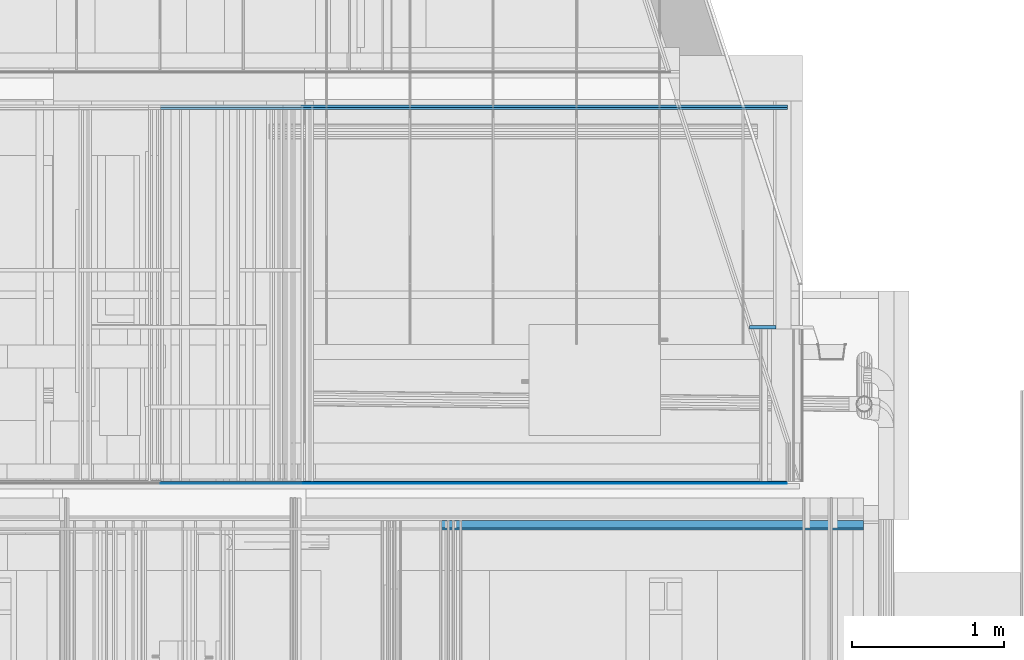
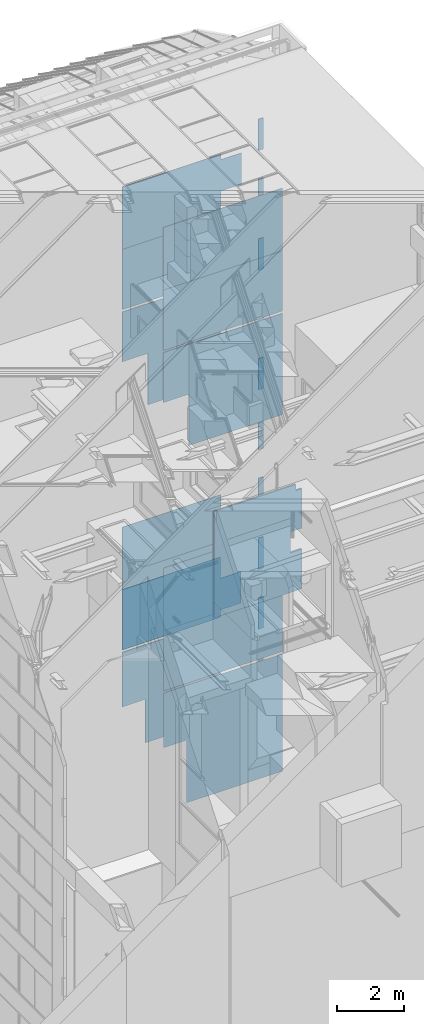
# One storey, part 285 of 583: 29 slabs.
"""IFC2X3 building model written with IfcOpenShell, lengths in metres."""

import ifcopenshell
import ifcopenshell.guid

model = None  # the IFC model being written
_history = None  # IfcOwnerHistory: only IFC2X3 demands one
_inside = {}  # id of a spatial element -> (the spatial element, [elements in it])
_under = {}  # id of a project, library or spatial element -> (it, [spatial elements below it])
_declared = {}  # id of a project -> (the project, [libraries it declares])
_typed = {}  # id of a type object -> (the type object, [elements of that type])
_made_of = {}  # id of a material, layer set ... -> (it, [elements and type objects made of it])


def new_model(schema):
    """Start an empty IFC model of exactly this schema.

    Asked for "IFC4X3", IfcOpenShell would pick the latest addendum, in which some entities
    have other attributes; the version numbers below select the first issue.
    IFC2X3 requires an IfcOwnerHistory on every rooted entity: one is made here for all.
    """
    global model, _history
    if schema == "IFC4X3":
        model = ifcopenshell.file(schema_version=(4, 3, 0, 0))
    else:
        model = ifcopenshell.file(schema=schema)
    _inside.clear()
    _under.clear()
    _declared.clear()
    _typed.clear()
    _made_of.clear()
    _history = None
    if model.schema == "IFC2X3":
        org = make("IfcOrganization", Name="unknown")
        user = make(
            "IfcPersonAndOrganization",
            ThePerson=make("IfcPerson", FamilyName="unknown"),
            TheOrganization=org,
        )
        app = make(
            "IfcApplication",
            ApplicationDeveloper=org,
            Version="unknown",
            ApplicationFullName="unknown",
            ApplicationIdentifier="unknown",
        )
        _history = make(
            "IfcOwnerHistory",
            OwningUser=user,
            OwningApplication=app,
            ChangeAction="ADDED",
            CreationDate=0,
        )
    return model


def make(cls, **values):
    """One entity of the class cls with the attributes given. An attribute that is None is left unset."""
    return model.create_entity(
        cls, **{name: value for name, value in values.items() if value is not None}
    )


def entity(cls, *values):
    """Any entity or typed value of the class cls, its attributes in the order of the schema. None: left unset."""
    e = model.create_entity(cls)
    for i, value in enumerate(values):
        if value is not None:
            e[i] = value
    return e


def rooted(cls, **values):
    """An entity with a GlobalId (a new one), such as an element, a storey or a relation."""
    return make(cls, GlobalId=ifcopenshell.guid.new(), OwnerHistory=_history, **values)


def si_unit(unit_type, name, prefix=None):
    """IfcSIUnit, for example si_unit("LENGTHUNIT", "METRE", prefix="MILLI")."""
    return make("IfcSIUnit", UnitType=unit_type, Prefix=prefix, Name=name)


def converted_unit(unit_type, name, factor, base, dimensions=None, offset=None):
    """IfcConversionBasedUnit, such as the inch: factor (a typed value) times the base unit."""
    return make(
        "IfcConversionBasedUnit"
        if offset is None
        else "IfcConversionBasedUnitWithOffset",
        ConversionOffset=offset,
        Dimensions=None
        if dimensions is None
        else entity("IfcDimensionalExponents", *dimensions),
        UnitType=unit_type,
        Name=name,
        ConversionFactor=make(
            "IfcMeasureWithUnit", ValueComponent=factor, UnitComponent=base
        ),
    )


def derived_unit(unit_type, elements):
    """IfcDerivedUnit: a product of units, each with its exponent."""
    return make(
        "IfcDerivedUnit",
        Elements=[
            make("IfcDerivedUnitElement", Unit=unit, Exponent=power)
            for unit, power in elements
        ],
        UnitType=unit_type,
    )


def money_unit(currency):
    """IfcMonetaryUnit."""
    return make("IfcMonetaryUnit", Currency=currency)


def assignment(units):
    """IfcUnitAssignment: the units of a project."""
    return None if units is None else make("IfcUnitAssignment", Units=units)


def point(xyz):
    """IfcCartesianPoint."""
    return None if xyz is None else make("IfcCartesianPoint", Coordinates=xyz)


def direction(xyz):
    """IfcDirection."""
    return None if xyz is None else make("IfcDirection", DirectionRatios=xyz)


def frame(location, z_axis=None, x_axis=None):
    """IfcAxis2Placement3D, a coordinate frame: its origin and axes. An axis left out is left unset."""
    return make(
        "IfcAxis2Placement3D",
        Location=point(location),
        Axis=direction(z_axis),
        RefDirection=direction(x_axis),
    )


def origin_with_axes():
    """The frame at (0, 0, 0) with the z axis (0, 0, 1) and the x axis (1, 0, 0) written out."""
    return frame((0.0, 0.0, 0.0), z_axis=(0.0, 0.0, 1.0), x_axis=(1.0, 0.0, 0.0))


def place(relative_to, where):
    """IfcLocalPlacement: puts the frame where relative to a parent placement (None: the world)."""
    return make(
        "IfcLocalPlacement", PlacementRelTo=relative_to, RelativePlacement=where
    )


def context(
    kind, dimensions, precision=None, world=None, true_north=None, identifier=None
):
    """IfcGeometricRepresentationContext, for example the 3D "Model" context."""
    return make(
        "IfcGeometricRepresentationContext",
        ContextIdentifier=identifier,
        ContextType=kind,
        CoordinateSpaceDimension=dimensions,
        Precision=precision,
        WorldCoordinateSystem=world,
        TrueNorth=true_north,
    )


def subcontext(parent, identifier, kind, view, scale=None):
    """IfcGeometricRepresentationSubContext, for example "Body" below "Model"."""
    return make(
        "IfcGeometricRepresentationSubContext",
        ContextIdentifier=identifier,
        ContextType=kind,
        ParentContext=parent,
        TargetScale=scale,
        TargetView=view,
    )


def project(units=None, contexts=None):
    """IfcProject with its units and contexts."""
    return rooted(
        "IfcProject",
        Name="project",
        RepresentationContexts=contexts,
        UnitsInContext=assignment(units),
    )


def spatial(cls, under=None, at=None, **own):
    """A site, building, storey or space (cls), placed at a placement, below another one or the project."""
    s = rooted(cls, ObjectPlacement=at, **own)
    if under is not None:
        _under.setdefault(under.id(), (under, []))[1].append(s)
    return s


def faces_of(points, faces, orient=None, outer=None):
    """IfcFace entities. A face is a list of loops; a loop is a list of indices into points, from 0.

    orient and outer hold one flag for each loop. By default every Orientation is true, the
    first loop of a face is its IfcFaceOuterBound and the others are IfcFaceBound.
    """
    made = []
    for i, loops in enumerate(faces):
        bounds = []
        for j, loop in enumerate(loops):
            is_outer = j == 0 if outer is None else outer[i][j]
            bounds.append(
                make(
                    "IfcFaceOuterBound" if is_outer else "IfcFaceBound",
                    Bound=make("IfcPolyLoop", Polygon=[points[k] for k in loop]),
                    Orientation=True if orient is None else orient[i][j],
                )
            )
        made.append(make("IfcFace", Bounds=bounds))
    return made


def faceted_brep(points, faces, orient=None, outer=None, voids=None):
    """IfcFacetedBrep: a solid bounded by flat faces; with voids (closed shells), ...WithVoids."""
    shared = [point(p) for p in points]
    hull = make("IfcClosedShell", CfsFaces=faces_of(shared, faces, orient, outer))
    if voids is None:
        return make("IfcFacetedBrep", Outer=hull)
    return make(
        "IfcFacetedBrepWithVoids",
        Outer=hull,
        Voids=[
            make(cls, CfsFaces=faces_of(shared, fs, o, b)) for cls, fs, o, b in voids
        ],
    )


def shape(context_of_items, identifier, shape_type, items):
    """IfcShapeRepresentation: the items that make up one representation, for example the "Body"."""
    return make(
        "IfcShapeRepresentation",
        ContextOfItems=context_of_items,
        RepresentationIdentifier=identifier,
        RepresentationType=shape_type,
        Items=items,
    )


def material(Name=None, Category=None):
    """IfcMaterial."""
    return make("IfcMaterial", Name=Name, Category=Category)


def made_of(thing, what):
    """Note that an element or type object is made of a material, layer set ...; save() writes the relation."""
    if what is not None:
        _made_of.setdefault(what.id(), (what, []))[1].append(thing)
    return thing


def type_object(cls, material=None, **own):
    """A type object (cls), such as IfcWallType, which elements share."""
    return made_of(rooted(cls, **own), material)


def element(
    cls,
    number,
    at=None,
    inside=None,
    cuts=None,
    type_object=None,
    material=None,
    context=None,
    identifier="Body",
    shape_type=None,
    held_by="IfcProductDefinitionShape",
    body=None,
    shapes=None,
    **own,
):
    """One element of the class cls, such as IfcWall. Its Tag is "e" and its number.

    at: its placement. inside: the storey or other place that contains it. cuts: it is an
    opening in that element (IfcRelVoidsElement). A single representation is given by context,
    identifier, shape_type and body (its items); several are given by shapes. held_by: the class
    of the entity that holds the representations. save() writes the other relations.
    """
    e = rooted(cls, Tag="e%d" % number, ObjectPlacement=at, **own)
    if body is not None:
        shapes = [shape(context, identifier, shape_type, body)]
    if shapes is not None:
        e.Representation = make(held_by, Representations=shapes)
    if inside is not None:
        _inside.setdefault(inside.id(), (inside, []))[1].append(e)
    if cuts is not None:
        rooted(
            "IfcRelVoidsElement", RelatingBuildingElement=cuts, RelatedOpeningElement=e
        )
    if type_object is not None:
        _typed.setdefault(type_object.id(), (type_object, []))[1].append(e)
    return made_of(e, material)


def aggregate(whole, parts):
    """IfcRelAggregates: a whole, such as a stair, and the parts it consists of."""
    return rooted("IfcRelAggregates", RelatingObject=whole, RelatedObjects=parts)


def save(model, path):
    """Write the relations noted so far, then the file.

    IfcRelAggregates (storeys below a building ...), IfcRelContainedInSpatialStructure (elements
    in a storey), IfcRelDefinesByType, IfcRelAssociatesMaterial and IfcRelDeclares: one each for
    every whole, place, type object, material and project.
    """
    for whole, parts in _under.values():
        aggregate(whole, parts)
    for where, things in _inside.values():
        rooted(
            "IfcRelContainedInSpatialStructure",
            RelatedElements=things,
            RelatingStructure=where,
        )
    for kind, things in _typed.values():
        rooted("IfcRelDefinesByType", RelatedObjects=things, RelatingType=kind)
    for what, things in _made_of.values():
        rooted("IfcRelAssociatesMaterial", RelatedObjects=things, RelatingMaterial=what)
    for by, libraries in _declared.values():
        rooted("IfcRelDeclares", RelatingContext=by, RelatedDefinitions=libraries)
    model.write(path)


model = new_model("IFC2X3")

# Units and contexts
model_context = context("Model", 3, precision=1e-05, world=origin_with_axes(), true_north=direction((0.0, 1.0)))
body_context = subcontext(model_context, "Body", "Model", "MODEL_VIEW", scale=1.0)
ifc_project = project(units=[si_unit("LENGTHUNIT", "METRE"), si_unit("AREAUNIT", "SQUARE_METRE"), si_unit("VOLUMEUNIT", "CUBIC_METRE"), si_unit("ABSORBEDDOSEUNIT", "GRAY"), si_unit("AMOUNTOFSUBSTANCEUNIT", "MOLE"), si_unit("DOSEEQUIVALENTUNIT", "SIEVERT"), si_unit("ELECTRICCAPACITANCEUNIT", "FARAD"), si_unit("ELECTRICCHARGEUNIT", "COULOMB"), si_unit("ELECTRICCONDUCTANCEUNIT", "SIEMENS"), si_unit("ELECTRICCURRENTUNIT", "AMPERE"), si_unit("ELECTRICRESISTANCEUNIT", "OHM"), si_unit("ELECTRICVOLTAGEUNIT", "VOLT"), si_unit("ENERGYUNIT", "JOULE"), si_unit("FORCEUNIT", "NEWTON"), si_unit("FREQUENCYUNIT", "HERTZ"), si_unit("ILLUMINANCEUNIT", "LUX"), si_unit("INDUCTANCEUNIT", "HENRY"), si_unit("LUMINOUSFLUXUNIT", "LUMEN"), si_unit("LUMINOUSINTENSITYUNIT", "CANDELA"), si_unit("MAGNETICFLUXDENSITYUNIT", "TESLA"), si_unit("MAGNETICFLUXUNIT", "WEBER"), si_unit("MASSUNIT", "GRAM"), converted_unit("PLANEANGLEUNIT", "degree", entity("IfcReal", 0.0174532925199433), si_unit("PLANEANGLEUNIT", "RADIAN"), dimensions=[0, 0, 0, 0, 0, 0, 0]), si_unit("POWERUNIT", "WATT"), si_unit("PRESSUREUNIT", "PASCAL"), si_unit("RADIOACTIVITYUNIT", "BECQUEREL"), si_unit("SOLIDANGLEUNIT", "STERADIAN"), si_unit("THERMODYNAMICTEMPERATUREUNIT", "KELVIN"), si_unit("TIMEUNIT", "SECOND"), derived_unit("ACCELERATIONUNIT", [(si_unit("LENGTHUNIT", "METRE"), 1), (si_unit("TIMEUNIT", "SECOND"), -2)]), derived_unit("ANGULARVELOCITYUNIT", [(converted_unit("PLANEANGLEUNIT", "degree", entity("IfcReal", 0.0174532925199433), si_unit("PLANEANGLEUNIT", "RADIAN"), dimensions=[0, 0, 0, 0, 0, 0, 0]), 1), (si_unit("TIMEUNIT", "SECOND"), -1)]), derived_unit("CURVATUREUNIT", [(converted_unit("PLANEANGLEUNIT", "degree", entity("IfcReal", 0.0174532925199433), si_unit("PLANEANGLEUNIT", "RADIAN"), dimensions=[0, 0, 0, 0, 0, 0, 0]), 1), (si_unit("LENGTHUNIT", "METRE"), -1)]), derived_unit("DYNAMICVISCOSITYUNIT", [(si_unit("PRESSUREUNIT", "PASCAL"), 1), (si_unit("TIMEUNIT", "SECOND"), 1)]), derived_unit("HEATFLUXDENSITYUNIT", [(si_unit("POWERUNIT", "WATT"), 1), (si_unit("LENGTHUNIT", "METRE"), -2)]), derived_unit("HEATINGVALUEUNIT", [(si_unit("ENERGYUNIT", "JOULE"), 1), (si_unit("MASSUNIT", "GRAM"), -1)]), derived_unit("INTEGERCOUNTRATEUNIT", [(si_unit("TIMEUNIT", "SECOND"), -1)]), derived_unit("IONCONCENTRATIONUNIT", [(si_unit("MASSUNIT", "GRAM"), 1), (si_unit("VOLUMEUNIT", "CUBIC_METRE"), -1)]), derived_unit("ISOTHERMALMOISTURECAPACITYUNIT", [(si_unit("VOLUMEUNIT", "CUBIC_METRE"), 1), (si_unit("MASSUNIT", "GRAM"), -1)]), derived_unit("KINEMATICVISCOSITYUNIT", [(si_unit("AREAUNIT", "SQUARE_METRE"), 1), (si_unit("TIMEUNIT", "SECOND"), -1)]), derived_unit("LINEARFORCEUNIT", [(si_unit("FORCEUNIT", "NEWTON"), 1), (si_unit("LENGTHUNIT", "METRE"), -1)]), derived_unit("LINEARMOMENTUNIT", [(si_unit("FORCEUNIT", "NEWTON"), 1), (si_unit("LENGTHUNIT", "METRE"), -1)]), derived_unit("LINEARSTIFFNESSUNIT", [(si_unit("FORCEUNIT", "NEWTON"), 1), (si_unit("LENGTHUNIT", "METRE"), -1)]), derived_unit("LINEARVELOCITYUNIT", [(si_unit("LENGTHUNIT", "METRE"), 1), (si_unit("TIMEUNIT", "SECOND"), -1)]), derived_unit("LUMINOUSINTENSITYDISTRIBUTIONUNIT", [(si_unit("LUMINOUSINTENSITYUNIT", "CANDELA"), 1), (si_unit("LUMINOUSFLUXUNIT", "LUMEN"), -1)]), derived_unit("MASSDENSITYUNIT", [(si_unit("MASSUNIT", "GRAM"), 1), (si_unit("VOLUMEUNIT", "CUBIC_METRE"), -1)]), derived_unit("MASSFLOWRATEUNIT", [(si_unit("MASSUNIT", "GRAM"), 1), (si_unit("TIMEUNIT", "SECOND"), -1)]), derived_unit("MASSPERLENGTHUNIT", [(si_unit("MASSUNIT", "GRAM"), 1), (si_unit("LENGTHUNIT", "METRE"), -1)]), derived_unit("MODULUSOFELASTICITYUNIT", [(si_unit("FORCEUNIT", "NEWTON"), 1), (si_unit("AREAUNIT", "SQUARE_METRE"), -1)]), derived_unit("MODULUSOFLINEARSUBGRADEREACTIONUNIT", [(si_unit("FORCEUNIT", "NEWTON"), 1), (si_unit("LENGTHUNIT", "METRE"), -2)]), derived_unit("MODULUSOFROTATIONALSUBGRADEREACTIONUNIT", [(si_unit("FORCEUNIT", "NEWTON"), 1), (si_unit("LENGTHUNIT", "METRE"), 1)]), derived_unit("MODULUSOFSUBGRADEREACTIONUNIT", [(si_unit("FORCEUNIT", "NEWTON"), 1), (si_unit("VOLUMEUNIT", "CUBIC_METRE"), -1)]), derived_unit("MOISTUREDIFFUSIVITYUNIT", [(si_unit("VOLUMEUNIT", "CUBIC_METRE"), 1), (si_unit("TIMEUNIT", "SECOND"), -1)]), derived_unit("MOLECULARWEIGHTUNIT", [(si_unit("MASSUNIT", "GRAM"), 1), (si_unit("AMOUNTOFSUBSTANCEUNIT", "MOLE"), -1)]), derived_unit("PLANARFORCEUNIT", [(si_unit("FORCEUNIT", "NEWTON"), 1), (si_unit("LENGTHUNIT", "METRE"), -2)]), derived_unit("ROTATIONALFREQUENCYUNIT", [(si_unit("TIMEUNIT", "SECOND"), -1)]), derived_unit("ROTATIONALMASSUNIT", [(si_unit("MASSUNIT", "GRAM"), 1), (si_unit("LENGTHUNIT", "METRE"), 2)]), derived_unit("ROTATIONALSTIFFNESSUNIT", [(si_unit("FORCEUNIT", "NEWTON"), 1), (si_unit("LENGTHUNIT", "METRE"), 1), (converted_unit("PLANEANGLEUNIT", "degree", entity("IfcReal", 0.0174532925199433), si_unit("PLANEANGLEUNIT", "RADIAN"), dimensions=[0, 0, 0, 0, 0, 0, 0]), -1)]), derived_unit("SECTIONAREAINTEGRALUNIT", [(si_unit("LENGTHUNIT", "METRE"), 5)]), derived_unit("SECTIONMODULUSUNIT", [(si_unit("LENGTHUNIT", "METRE"), 3)]), derived_unit("SHEARMODULUSUNIT", [(si_unit("FORCEUNIT", "NEWTON"), 1), (si_unit("AREAUNIT", "SQUARE_METRE"), -1)]), derived_unit("SOUNDPOWERUNIT", [(si_unit("ENERGYUNIT", "JOULE"), 1), (si_unit("TIMEUNIT", "SECOND"), -1)]), derived_unit("SPECIFICHEATCAPACITYUNIT", [(si_unit("FORCEUNIT", "NEWTON"), 1), (si_unit("MASSUNIT", "GRAM"), -1), (si_unit("THERMODYNAMICTEMPERATUREUNIT", "KELVIN"), -1)]), derived_unit("TEMPERATUREGRADIENTUNIT", [(si_unit("THERMODYNAMICTEMPERATUREUNIT", "KELVIN"), 1), (si_unit("LENGTHUNIT", "METRE"), -1)]), derived_unit("THERMALADMITTANCEUNIT", [(si_unit("POWERUNIT", "WATT"), 1), (si_unit("AREAUNIT", "SQUARE_METRE"), -1), (si_unit("THERMODYNAMICTEMPERATUREUNIT", "KELVIN"), -1)]), derived_unit("THERMALCONDUCTANCEUNIT", [(si_unit("POWERUNIT", "WATT"), 1), (si_unit("LENGTHUNIT", "METRE"), -1), (si_unit("THERMODYNAMICTEMPERATUREUNIT", "KELVIN"), -1)]), derived_unit("THERMALEXPANSIONCOEFFICIENTUNIT", [(si_unit("THERMODYNAMICTEMPERATUREUNIT", "KELVIN"), -1)]), derived_unit("THERMALRESISTANCEUNIT", [(si_unit("AREAUNIT", "SQUARE_METRE"), 1), (si_unit("POWERUNIT", "WATT"), -1)]), derived_unit("THERMALTRANSMITTANCEUNIT", [(si_unit("POWERUNIT", "WATT"), 1), (si_unit("AREAUNIT", "SQUARE_METRE"), -1), (si_unit("THERMODYNAMICTEMPERATUREUNIT", "KELVIN"), -1)]), derived_unit("TORQUEUNIT", [(si_unit("FORCEUNIT", "NEWTON"), 1), (si_unit("LENGTHUNIT", "METRE"), 1)]), derived_unit("VAPORPERMEABILITYUNIT", [(si_unit("MASSUNIT", "GRAM"), 1), (si_unit("TIMEUNIT", "SECOND"), -1)]), derived_unit("VOLUMETRICFLOWRATEUNIT", [(si_unit("VOLUMEUNIT", "CUBIC_METRE"), 1), (si_unit("TIMEUNIT", "SECOND"), -1)]), derived_unit("WARPINGCONSTANTUNIT", [(si_unit("LENGTHUNIT", "METRE"), 6)]), derived_unit("WARPINGMOMENTUNIT", [(si_unit("FORCEUNIT", "NEWTON"), 1), (si_unit("LENGTHUNIT", "METRE"), 2)]), money_unit("GBP")], contexts=[model_context])

# Site, building, storey
site_placement = place(None, origin_with_axes())
site = spatial("IfcSite", under=ifc_project, at=site_placement, Name="Site", CompositionType="ELEMENT")
building_placement = place(site_placement, origin_with_axes())
building = spatial("IfcBuilding", under=site, at=building_placement, Name="Building01", CompositionType="ELEMENT")
storey_placement = place(building_placement, frame((0.0, 0.0, 20.78), z_axis=(0.0, 0.0, 1.0), x_axis=(1.0, 0.0, 0.0)))
storey = spatial("IfcBuildingStorey", under=building, at=storey_placement, Name="RL", CompositionType="ELEMENT", Elevation=20.78)

# Slabs
ifc_material_1 = material(Name="A_BSUK_CeilingSoffitFinishes_Suspended")
slab_type_1 = type_object("IfcSlabType", Name="A-FloorsSlabs A_BSUK_Slabs", PredefinedType="FLOOR")
placement = place(storey_placement, frame((0.0, 0.0, -20.78), z_axis=(0.0, 0.0, 1.0), x_axis=(1.0, 0.0, 0.0)))
element("IfcSlab", 1, at=placement, inside=storey, type_object=slab_type_1, material=ifc_material_1, Name="A-FloorsSlabs A_BSUK_Slabs", ObjectType="CompoundSlabLeaf", context=body_context, shape_type="Brep", body=[
    faceted_brep([(12.013124, 14.658, 7.289669), (12.013124, 14.673, 7.289669), (14.582, 14.673, 7.289669), (14.582, 14.658, 7.289669), (11.763124, 14.658, 7.289669), (11.763124, 14.673, 7.289669), (11.763124, 14.658, 11.18), (11.763124, 14.673, 11.18), (14.582, 14.658, 11.18), (14.582, 14.673, 11.18), (14.582, 14.658, 10.955), (14.582, 14.673, 10.955), (14.8, 14.658, 10.955), (14.8, 14.673, 10.955), (14.8, 14.658, 9.508), (14.8, 14.673, 9.508), (14.402, 14.658, 9.508), (14.402, 14.673, 9.508), (14.402, 14.658, 8.742), (14.402, 14.673, 8.742), (14.8, 14.658, 8.742), (14.8, 14.673, 8.742), (14.8, 14.658, 7.295), (14.8, 14.673, 7.295), (14.582, 14.658, 7.295), (14.582, 14.673, 7.295)], [[[0, 1, 2, 3]], [[4, 5, 1, 0]], [[6, 7, 5, 4]], [[8, 9, 7, 6]], [[10, 11, 9, 8]], [[12, 13, 11, 10]], [[14, 15, 13, 12]], [[16, 17, 15, 14]], [[18, 19, 17, 16]], [[20, 21, 19, 18]], [[22, 23, 21, 20]], [[24, 25, 23, 22]], [[3, 2, 25, 24]], [[1, 5, 7, 9, 11, 13, 15, 17, 19, 21, 23, 25, 2]], [[3, 24, 22, 20, 18, 16, 14, 12, 10, 8, 6, 4, 0]]]),
])
element("IfcSlab", 2, at=placement, inside=storey, type_object=slab_type_1, material=ifc_material_1, Name="A-FloorsSlabs A_BSUK_Slabs", ObjectType="CompoundSlabLeaf", context=body_context, shape_type="Brep", body=[
    faceted_brep([(10.979915, 17.423, 1.312402), (10.979915, 17.438, 1.312402), (13.587598, 17.438, 1.312402), (13.587598, 17.423, 1.312402), (10.979915, 17.423, 2.9), (10.979915, 17.438, 2.9), (10.179939, 17.423, 2.9), (10.179939, 17.438, 2.9), (10.179939, 17.423, 4.900024), (10.179939, 17.438, 4.900024), (13.587598, 17.423, 4.900024), (13.587598, 17.438, 4.900024), (13.587598, 17.423, 4.219976), (13.587598, 17.438, 4.219976), (14.300061, 17.423, 4.219976), (14.300061, 17.438, 4.219976), (14.300061, 17.423, 3.070024), (14.300061, 17.438, 3.070024), (13.563821, 17.423, 3.070024), (13.563821, 17.438, 3.070024)], [[[0, 1, 2, 3]], [[4, 5, 1, 0]], [[6, 7, 5, 4]], [[8, 9, 7, 6]], [[10, 11, 9, 8]], [[12, 13, 11, 10]], [[14, 15, 13, 12]], [[16, 17, 15, 14]], [[18, 19, 17, 16]], [[3, 2, 19, 18]], [[1, 5, 7, 9, 11, 13, 15, 17, 19, 2]], [[3, 18, 16, 14, 12, 10, 8, 6, 4, 0]]]),
])
element("IfcSlab", 3, at=placement, inside=storey, type_object=slab_type_1, material=ifc_material_1, Name="A-FloorsSlabs A_BSUK_Slabs", ObjectType="CompoundSlabLeaf", context=body_context, shape_type="Brep", body=[
    faceted_brep([(10.179939, 17.423, 4.980024), (10.179939, 17.438, 4.980024), (13.587598, 17.438, 4.980024), (13.587598, 17.423, 4.980024), (10.179939, 17.423, 7.190024), (10.179939, 17.438, 7.190024), (13.587598, 17.423, 7.190024), (13.587598, 17.438, 7.190024), (13.587598, 17.423, 6.410024), (13.587598, 17.438, 6.410024), (14.300061, 17.423, 6.410024), (14.300061, 17.438, 6.410024), (14.300061, 17.423, 5.260024), (14.300061, 17.438, 5.260024), (13.587598, 17.423, 5.260024), (13.587598, 17.438, 5.260024)], [[[0, 1, 2, 3]], [[4, 5, 1, 0]], [[6, 7, 5, 4]], [[8, 9, 7, 6]], [[10, 11, 9, 8]], [[12, 13, 11, 10]], [[14, 15, 13, 12]], [[3, 2, 15, 14]], [[1, 5, 7, 9, 11, 13, 15, 2]], [[3, 14, 12, 10, 8, 6, 4, 0]]]),
])
element("IfcSlab", 4, at=placement, inside=storey, type_object=slab_type_1, material=ifc_material_1, Name="A-FloorsSlabs A_BSUK_Slabs", ObjectType="CompoundSlabLeaf", context=body_context, shape_type="Brep", body=[
    faceted_brep([(10.179939, 17.423, 9.480024), (10.179939, 17.438, 9.480024), (10.179939, 17.438, 7.190024), (10.179939, 17.423, 7.190024), (13.587598, 17.423, 9.480024), (13.587598, 17.438, 9.480024), (13.587598, 17.423, 8.600024), (13.587598, 17.438, 8.600024), (14.300061, 17.423, 8.600024), (14.300061, 17.438, 8.600024), (14.300061, 17.423, 7.450024), (14.300061, 17.438, 7.450024), (13.587598, 17.423, 7.450024), (13.587598, 17.438, 7.450024), (13.587598, 17.423, 7.190024), (13.587598, 17.438, 7.190024)], [[[0, 1, 2, 3]], [[4, 5, 1, 0]], [[6, 7, 5, 4]], [[8, 9, 7, 6]], [[10, 11, 9, 8]], [[12, 13, 11, 10]], [[14, 15, 13, 12]], [[3, 2, 15, 14]], [[1, 5, 7, 9, 11, 13, 15, 2]], [[3, 14, 12, 10, 8, 6, 4, 0]]]),
])
element("IfcSlab", 5, at=placement, inside=storey, type_object=slab_type_1, material=ifc_material_1, Name="A-FloorsSlabs A_BSUK_Slabs", ObjectType="CompoundSlabLeaf", context=body_context, shape_type="Brep", body=[
    faceted_brep([(11.063789, 17.423, 13.65), (11.063789, 17.438, 13.65), (13.587598, 17.438, 13.65), (13.587598, 17.423, 13.65), (11.063789, 17.423, 15.529998), (11.063789, 17.438, 15.529998), (10.179939, 17.423, 15.529998), (10.179939, 17.438, 15.529998), (10.179939, 17.423, 17.360024), (10.179939, 17.438, 17.360024), (14.300061, 17.423, 17.360024), (14.300061, 17.438, 17.360024), (14.300061, 17.423, 16.210024), (14.300061, 17.438, 16.210024), (13.587598, 17.423, 16.210024), (13.587598, 17.438, 16.210024), (13.587598, 17.423, 15.169976), (13.587598, 17.438, 15.169976), (14.300061, 17.423, 15.169976), (14.300061, 17.438, 15.169976), (14.300061, 17.423, 14.020024), (14.300061, 17.438, 14.020024), (13.587598, 17.423, 14.020024), (13.587598, 17.438, 14.020024)], [[[0, 1, 2, 3]], [[4, 5, 1, 0]], [[6, 7, 5, 4]], [[8, 9, 7, 6]], [[10, 11, 9, 8]], [[12, 13, 11, 10]], [[14, 15, 13, 12]], [[16, 17, 15, 14]], [[18, 19, 17, 16]], [[20, 21, 19, 18]], [[22, 23, 21, 20]], [[3, 2, 23, 22]], [[1, 5, 7, 9, 11, 13, 15, 17, 19, 21, 23, 2]], [[3, 22, 20, 18, 16, 14, 12, 10, 8, 6, 4, 0]]]),
])
element("IfcSlab", 6, at=placement, inside=storey, type_object=slab_type_1, material=ifc_material_1, Name="A-FloorsSlabs A_BSUK_Slabs", ObjectType="CompoundSlabLeaf", context=body_context, shape_type="Brep", body=[
    faceted_brep([(10.179939, 17.423, 17.439976), (10.179939, 17.438, 17.439976), (13.587598, 17.438, 17.439976), (13.587598, 17.423, 17.439976), (10.179939, 17.423, 19.649976), (10.179939, 17.438, 19.649976), (13.587598, 17.423, 19.649976), (13.587598, 17.438, 19.649976), (13.587598, 17.423, 19.549976), (13.587598, 17.438, 19.549976), (14.300061, 17.423, 19.549976), (14.300061, 17.438, 19.549976), (14.300061, 17.423, 18.400024), (14.300061, 17.438, 18.400024), (13.587598, 17.423, 18.400024), (13.587598, 17.438, 18.400024)], [[[0, 1, 2, 3]], [[4, 5, 1, 0]], [[6, 7, 5, 4]], [[8, 9, 7, 6]], [[10, 11, 9, 8]], [[12, 13, 11, 10]], [[14, 15, 13, 12]], [[3, 2, 15, 14]], [[1, 5, 7, 9, 11, 13, 15, 2]], [[3, 14, 12, 10, 8, 6, 4, 0]]]),
])
element("IfcSlab", 7, at=placement, inside=storey, type_object=slab_type_1, material=ifc_material_1, Name="A-FloorsSlabs A_BSUK_Slabs", ObjectType="CompoundSlabLeaf", context=body_context, shape_type="Brep", body=[
    faceted_brep([(10.179939, 17.423, 19.649976), (10.179939, 17.438, 19.649976), (13.587598, 17.438, 19.649976), (13.587598, 17.423, 19.649976), (10.179939, 17.423, 21.939976), (10.179939, 17.438, 21.939976), (13.587598, 17.423, 21.939976), (13.587598, 17.438, 21.939976), (13.587598, 17.423, 21.739976), (13.587598, 17.438, 21.739976), (14.300061, 17.423, 21.739976), (14.300061, 17.438, 21.739976), (14.300061, 17.423, 20.590024), (14.300061, 17.438, 20.590024), (13.587598, 17.423, 20.590024), (13.587598, 17.438, 20.590024)], [[[0, 1, 2, 3]], [[4, 5, 1, 0]], [[6, 7, 5, 4]], [[8, 9, 7, 6]], [[10, 11, 9, 8]], [[12, 13, 11, 10]], [[14, 15, 13, 12]], [[3, 2, 15, 14]], [[1, 5, 7, 9, 11, 13, 15, 2]], [[3, 14, 12, 10, 8, 6, 4, 0]]]),
])
ifc_material_2 = material(Name="A_BSUK_ExpandedPolystyreneBoards")
element("IfcSlab", 8, at=placement, inside=storey, type_object=slab_type_1, material=ifc_material_2, Name="A-FloorsSlabs A_BSUK_Slabs", ObjectType="CompoundSlabLeaf", context=body_context, shape_type="Brep", body=[
    faceted_brep([(10.979915, 14.965, 0.6038), (10.979915, 14.968, 0.6038), (14.2962, 14.968, 0.6038), (14.2962, 14.965, 0.6038), (10.979915, 14.965, 2.9), (10.979915, 14.968, 2.9), (10.179939, 14.965, 2.9), (10.179939, 14.968, 2.9), (10.179939, 14.965, 4.900024), (10.179939, 14.968, 4.900024), (14.2962, 14.965, 4.900024), (14.2962, 14.968, 4.900024), (14.2962, 14.965, 4.219976), (14.2962, 14.968, 4.219976), (14.2962, 14.965, 3.070024), (14.2962, 14.968, 3.070024)], [[[0, 1, 2, 3]], [[4, 5, 1, 0]], [[6, 7, 5, 4]], [[8, 9, 7, 6]], [[10, 11, 9, 8]], [[12, 13, 11, 10]], [[14, 15, 13, 12]], [[3, 2, 15, 14]], [[1, 5, 7, 9, 11, 13, 15, 2]], [[3, 14, 12, 10, 8, 6, 4, 0]]]),
])
element("IfcSlab", 9, at=placement, inside=storey, type_object=slab_type_1, material=ifc_material_2, Name="A-FloorsSlabs A_BSUK_Slabs", ObjectType="CompoundSlabLeaf", context=body_context, shape_type="Brep", body=[
    faceted_brep([(10.179939, 14.965, 4.980024), (10.179939, 14.968, 4.980024), (14.2962, 14.968, 4.980024), (14.2962, 14.965, 4.980024), (10.179939, 14.965, 7.190024), (10.179939, 14.968, 7.190024), (14.2962, 14.965, 7.190024), (14.2962, 14.968, 7.190024), (14.2962, 14.965, 6.410024), (14.2962, 14.968, 6.410024), (14.2962, 14.965, 5.260024), (14.2962, 14.968, 5.260024)], [[[0, 1, 2, 3]], [[4, 5, 1, 0]], [[6, 7, 5, 4]], [[8, 9, 7, 6]], [[10, 11, 9, 8]], [[3, 2, 11, 10]], [[1, 5, 7, 9, 11, 2]], [[3, 10, 8, 6, 4, 0]]]),
])
element("IfcSlab", 10, at=placement, inside=storey, type_object=slab_type_1, material=ifc_material_2, Name="A-FloorsSlabs A_BSUK_Slabs", ObjectType="CompoundSlabLeaf", context=body_context, shape_type="Brep", body=[
    faceted_brep([(10.179939, 14.965, 9.480024), (10.179939, 14.968, 9.480024), (10.179939, 14.968, 7.190024), (10.179939, 14.965, 7.190024), (14.2962, 14.965, 9.480024), (14.2962, 14.968, 9.480024), (14.2962, 14.965, 8.600024), (14.2962, 14.968, 8.600024), (14.2962, 14.965, 7.450024), (14.2962, 14.968, 7.450024), (14.2962, 14.965, 7.190024), (14.2962, 14.968, 7.190024)], [[[0, 1, 2, 3]], [[4, 5, 1, 0]], [[6, 7, 5, 4]], [[8, 9, 7, 6]], [[10, 11, 9, 8]], [[3, 2, 11, 10]], [[1, 5, 7, 9, 11, 2]], [[3, 10, 8, 6, 4, 0]]]),
])
element("IfcSlab", 11, at=placement, inside=storey, type_object=slab_type_1, material=ifc_material_2, Name="A-FloorsSlabs A_BSUK_Slabs", ObjectType="CompoundSlabLeaf", context=body_context, shape_type="Brep", body=[
    faceted_brep([(11.063789, 14.965, 13.65), (11.063789, 14.968, 13.65), (14.2962, 14.968, 13.65), (14.2962, 14.965, 13.65), (11.063789, 14.965, 15.529998), (11.063789, 14.968, 15.529998), (10.179939, 14.965, 15.529998), (10.179939, 14.968, 15.529998), (10.179939, 14.965, 17.360024), (10.179939, 14.968, 17.360024), (14.2962, 14.965, 17.360024), (14.2962, 14.968, 17.360024), (14.2962, 14.965, 16.210024), (14.2962, 14.968, 16.210024), (14.2962, 14.965, 15.169976), (14.2962, 14.968, 15.169976), (14.2962, 14.965, 14.020024), (14.2962, 14.968, 14.020024)], [[[0, 1, 2, 3]], [[4, 5, 1, 0]], [[6, 7, 5, 4]], [[8, 9, 7, 6]], [[10, 11, 9, 8]], [[12, 13, 11, 10]], [[14, 15, 13, 12]], [[16, 17, 15, 14]], [[3, 2, 17, 16]], [[1, 5, 7, 9, 11, 13, 15, 17, 2]], [[3, 16, 14, 12, 10, 8, 6, 4, 0]]]),
])
element("IfcSlab", 12, at=placement, inside=storey, type_object=slab_type_1, material=ifc_material_2, Name="A-FloorsSlabs A_BSUK_Slabs", ObjectType="CompoundSlabLeaf", context=body_context, shape_type="Brep", body=[
    faceted_brep([(10.179939, 14.965, 17.439976), (10.179939, 14.968, 17.439976), (14.2962, 14.968, 17.439976), (14.2962, 14.965, 17.439976), (10.179939, 14.965, 19.649976), (10.179939, 14.968, 19.649976), (14.2962, 14.965, 19.649976), (14.2962, 14.968, 19.649976), (14.2962, 14.965, 19.549976), (14.2962, 14.968, 19.549976), (14.2962, 14.965, 18.400024), (14.2962, 14.968, 18.400024)], [[[0, 1, 2, 3]], [[4, 5, 1, 0]], [[6, 7, 5, 4]], [[8, 9, 7, 6]], [[10, 11, 9, 8]], [[3, 2, 11, 10]], [[1, 5, 7, 9, 11, 2]], [[3, 10, 8, 6, 4, 0]]]),
])
element("IfcSlab", 13, at=placement, inside=storey, type_object=slab_type_1, material=ifc_material_2, Name="A-FloorsSlabs A_BSUK_Slabs", ObjectType="CompoundSlabLeaf", context=body_context, shape_type="Brep", body=[
    faceted_brep([(10.179939, 14.965, 19.649976), (10.179939, 14.968, 19.649976), (14.2962, 14.968, 19.649976), (14.2962, 14.965, 19.649976), (10.179939, 14.965, 21.939976), (10.179939, 14.968, 21.939976), (14.2962, 14.965, 21.939976), (14.2962, 14.968, 21.939976), (14.2962, 14.965, 21.739976), (14.2962, 14.968, 21.739976), (14.2962, 14.965, 20.590024), (14.2962, 14.968, 20.590024)], [[[0, 1, 2, 3]], [[4, 5, 1, 0]], [[6, 7, 5, 4]], [[8, 9, 7, 6]], [[10, 11, 9, 8]], [[3, 2, 11, 10]], [[1, 5, 7, 9, 11, 2]], [[3, 10, 8, 6, 4, 0]]]),
])
ifc_material_3 = material(Name="A_BSUK_Timber_Miscellaneous")
element("IfcSlab", 14, at=placement, inside=storey, type_object=slab_type_1, material=ifc_material_3, Name="A-FloorsSlabs A_BSUK_Slabs", ObjectType="CompoundSlabLeaf", context=body_context, shape_type="Brep", body=[
    faceted_brep([(14.224661, 15.98, 23.930024), (14.224661, 16.005, 23.930024), (14.050061, 16.005, 23.930024), (14.050061, 15.98, 23.930024), (14.224661, 15.98, 22.780024), (14.224661, 16.005, 22.780024), (14.050062, 15.98, 22.780024), (14.050062, 16.005, 22.780024)], [[[0, 1, 2, 3]], [[4, 5, 1, 0]], [[6, 7, 5, 4]], [[3, 2, 7, 6]], [[1, 5, 7, 2]], [[3, 6, 4, 0]]]),
])
element("IfcSlab", 15, at=placement, inside=storey, type_object=slab_type_1, material=ifc_material_3, Name="A-FloorsSlabs A_BSUK_Slabs", ObjectType="CompoundSlabLeaf", context=body_context, shape_type="Brep", body=[
    faceted_brep([(14.224661, 15.98, 21.740024), (14.224661, 16.005, 21.740024), (14.050061, 16.005, 21.740024), (14.050061, 15.98, 21.740024), (14.224661, 15.98, 20.590024), (14.224661, 16.005, 20.590024), (14.050062, 15.98, 20.590024), (14.050062, 16.005, 20.590024)], [[[0, 1, 2, 3]], [[4, 5, 1, 0]], [[6, 7, 5, 4]], [[3, 2, 7, 6]], [[1, 5, 7, 2]], [[3, 6, 4, 0]]]),
])
element("IfcSlab", 16, at=placement, inside=storey, type_object=slab_type_1, material=ifc_material_3, Name="A-FloorsSlabs A_BSUK_Slabs", ObjectType="CompoundSlabLeaf", context=body_context, shape_type="Brep", body=[
    faceted_brep([(14.224661, 15.98, 19.550024), (14.224661, 16.005, 19.550024), (14.050061, 16.005, 19.550024), (14.050061, 15.98, 19.550024), (14.224661, 15.98, 18.400024), (14.224661, 16.005, 18.400024), (14.050062, 15.98, 18.400024), (14.050062, 16.005, 18.400024)], [[[0, 1, 2, 3]], [[4, 5, 1, 0]], [[6, 7, 5, 4]], [[3, 2, 7, 6]], [[1, 5, 7, 2]], [[3, 6, 4, 0]]]),
])
element("IfcSlab", 17, at=placement, inside=storey, type_object=slab_type_1, material=ifc_material_3, Name="A-FloorsSlabs A_BSUK_Slabs", ObjectType="CompoundSlabLeaf", context=body_context, shape_type="Brep", body=[
    faceted_brep([(14.224661, 15.98, 17.360024), (14.224661, 16.005, 17.360024), (14.050061, 16.005, 17.360024), (14.050061, 15.98, 17.360024), (14.224661, 15.98, 16.210024), (14.224661, 16.005, 16.210024), (14.050062, 15.98, 16.210024), (14.050062, 16.005, 16.210024)], [[[0, 1, 2, 3]], [[4, 5, 1, 0]], [[6, 7, 5, 4]], [[3, 2, 7, 6]], [[1, 5, 7, 2]], [[3, 6, 4, 0]]]),
])
element("IfcSlab", 18, at=placement, inside=storey, type_object=slab_type_1, material=ifc_material_3, Name="A-FloorsSlabs A_BSUK_Slabs", ObjectType="CompoundSlabLeaf", context=body_context, shape_type="Brep", body=[
    faceted_brep([(14.224661, 15.98, 15.170024), (14.224661, 16.005, 15.170024), (14.050061, 16.005, 15.170024), (14.050061, 15.98, 15.170024), (14.224661, 15.98, 14.020024), (14.224661, 16.005, 14.020024), (14.050062, 15.98, 14.020024), (14.050062, 16.005, 14.020024)], [[[0, 1, 2, 3]], [[4, 5, 1, 0]], [[6, 7, 5, 4]], [[3, 2, 7, 6]], [[1, 5, 7, 2]], [[3, 6, 4, 0]]]),
])
element("IfcSlab", 19, at=placement, inside=storey, type_object=slab_type_1, material=ifc_material_3, Name="A-FloorsSlabs A_BSUK_Slabs", ObjectType="CompoundSlabLeaf", context=body_context, shape_type="Brep", body=[
    faceted_brep([(14.224661, 15.98, 12.980024), (14.224661, 16.005, 12.980024), (14.050061, 16.005, 12.980024), (14.050061, 15.98, 12.980024), (14.224661, 15.98, 11.830024), (14.224661, 16.005, 11.830024), (14.050062, 15.98, 11.830024), (14.050062, 16.005, 11.830024)], [[[0, 1, 2, 3]], [[4, 5, 1, 0]], [[6, 7, 5, 4]], [[3, 2, 7, 6]], [[1, 5, 7, 2]], [[3, 6, 4, 0]]]),
])
element("IfcSlab", 20, at=placement, inside=storey, type_object=slab_type_1, material=ifc_material_3, Name="A-FloorsSlabs A_BSUK_Slabs", ObjectType="CompoundSlabLeaf", context=body_context, shape_type="Brep", body=[
    faceted_brep([(14.224661, 15.98, 10.790024), (14.224661, 16.005, 10.790024), (14.050061, 16.005, 10.790024), (14.050061, 15.98, 10.790024), (14.224661, 15.98, 9.640024), (14.224661, 16.005, 9.640024), (14.050062, 15.98, 9.640024), (14.050062, 16.005, 9.640024)], [[[0, 1, 2, 3]], [[4, 5, 1, 0]], [[6, 7, 5, 4]], [[3, 2, 7, 6]], [[1, 5, 7, 2]], [[3, 6, 4, 0]]]),
])
element("IfcSlab", 21, at=placement, inside=storey, type_object=slab_type_1, material=ifc_material_3, Name="A-FloorsSlabs A_BSUK_Slabs", ObjectType="CompoundSlabLeaf", context=body_context, shape_type="Brep", body=[
    faceted_brep([(14.224661, 15.98, 8.600024), (14.224661, 16.005, 8.600024), (14.050061, 16.005, 8.600024), (14.050061, 15.98, 8.600024), (14.224661, 15.98, 7.450024), (14.224661, 16.005, 7.450024), (14.050062, 15.98, 7.450024), (14.050062, 16.005, 7.450024)], [[[0, 1, 2, 3]], [[4, 5, 1, 0]], [[6, 7, 5, 4]], [[3, 2, 7, 6]], [[1, 5, 7, 2]], [[3, 6, 4, 0]]]),
])
element("IfcSlab", 22, at=placement, inside=storey, type_object=slab_type_1, material=ifc_material_3, Name="A-FloorsSlabs A_BSUK_Slabs", ObjectType="CompoundSlabLeaf", context=body_context, shape_type="Brep", body=[
    faceted_brep([(14.224661, 15.98, 6.410024), (14.224661, 16.005, 6.410024), (14.050061, 16.005, 6.410024), (14.050061, 15.98, 6.410024), (14.224661, 15.98, 5.260024), (14.224661, 16.005, 5.260024), (14.050062, 15.98, 5.260024), (14.050062, 16.005, 5.260024)], [[[0, 1, 2, 3]], [[4, 5, 1, 0]], [[6, 7, 5, 4]], [[3, 2, 7, 6]], [[1, 5, 7, 2]], [[3, 6, 4, 0]]]),
])
element("IfcSlab", 23, at=placement, inside=storey, type_object=slab_type_1, material=ifc_material_3, Name="A-FloorsSlabs A_BSUK_Slabs", ObjectType="CompoundSlabLeaf", context=body_context, shape_type="Brep", body=[
    faceted_brep([(14.224661, 15.98, 4.220024), (14.224661, 16.005, 4.220024), (14.050061, 16.005, 4.220024), (14.050061, 15.98, 4.220024), (14.224661, 15.98, 3.070024), (14.224661, 16.005, 3.070024), (14.050062, 15.98, 3.070024), (14.050062, 16.005, 3.070024)], [[[0, 1, 2, 3]], [[4, 5, 1, 0]], [[6, 7, 5, 4]], [[3, 2, 7, 6]], [[1, 5, 7, 2]], [[3, 6, 4, 0]]]),
])
element("IfcSlab", 24, at=placement, inside=storey, type_object=slab_type_1, material=ifc_material_1, Name="A-FloorsSlabs A_BSUK_Slabs", ObjectType="CompoundSlabLeaf", context=body_context, shape_type="Brep", body=[
    faceted_brep([(10.979915, 17.438, 1.312402), (10.979915, 17.453, 1.312402), (13.587598, 17.453, 1.312402), (13.587598, 17.438, 1.312402), (10.979915, 17.438, 2.9), (10.979915, 17.453, 2.9), (10.179939, 17.438, 2.9), (10.179939, 17.453, 2.9), (10.179939, 17.438, 4.900024), (10.179939, 17.453, 4.900024), (13.587598, 17.438, 4.900024), (13.587598, 17.453, 4.900024), (13.587598, 17.438, 4.219976), (13.587598, 17.453, 4.219976), (14.300061, 17.438, 4.219976), (14.300061, 17.453, 4.219976), (14.300061, 17.438, 3.070024), (14.300061, 17.453, 3.070024), (13.563821, 17.438, 3.070024), (13.563821, 17.453, 3.070024)], [[[0, 1, 2, 3]], [[4, 5, 1, 0]], [[6, 7, 5, 4]], [[8, 9, 7, 6]], [[10, 11, 9, 8]], [[12, 13, 11, 10]], [[14, 15, 13, 12]], [[16, 17, 15, 14]], [[18, 19, 17, 16]], [[3, 2, 19, 18]], [[1, 5, 7, 9, 11, 13, 15, 17, 19, 2]], [[3, 18, 16, 14, 12, 10, 8, 6, 4, 0]]]),
])
element("IfcSlab", 25, at=placement, inside=storey, type_object=slab_type_1, material=ifc_material_1, Name="A-FloorsSlabs A_BSUK_Slabs", ObjectType="CompoundSlabLeaf", context=body_context, shape_type="Brep", body=[
    faceted_brep([(10.179939, 17.438, 4.980024), (10.179939, 17.453, 4.980024), (13.587598, 17.453, 4.980024), (13.587598, 17.438, 4.980024), (10.179939, 17.438, 7.190024), (10.179939, 17.453, 7.190024), (13.587598, 17.438, 7.190024), (13.587598, 17.453, 7.190024), (13.587598, 17.438, 6.410024), (13.587598, 17.453, 6.410024), (14.300061, 17.438, 6.410024), (14.300061, 17.453, 6.410024), (14.300061, 17.438, 5.260024), (14.300061, 17.453, 5.260024), (13.587598, 17.438, 5.260024), (13.587598, 17.453, 5.260024)], [[[0, 1, 2, 3]], [[4, 5, 1, 0]], [[6, 7, 5, 4]], [[8, 9, 7, 6]], [[10, 11, 9, 8]], [[12, 13, 11, 10]], [[14, 15, 13, 12]], [[3, 2, 15, 14]], [[1, 5, 7, 9, 11, 13, 15, 2]], [[3, 14, 12, 10, 8, 6, 4, 0]]]),
])
slab_type_2 = type_object("IfcSlabType", Name="A-FloorsSlabs A_BSUK_ExpandedPolystyreneBoards", PredefinedType="FLOOR")
element("IfcSlab", 26, at=placement, inside=storey, type_object=slab_type_2, material=ifc_material_2, Name="A-FloorsSlabs A_BSUK_ExpandedPolystyreneBoards", ObjectType="CompoundSlabLeaf", context=body_context, shape_type="Brep", body=[
    faceted_brep([(12.013124, 14.673, 7.289669), (12.013124, 14.723, 7.289669), (14.582, 14.723, 7.289669), (14.582, 14.673, 7.289669), (11.763124, 14.673, 7.289669), (11.763124, 14.723, 7.289669), (11.763124, 14.673, 11.18), (11.763124, 14.723, 11.18), (14.582, 14.673, 11.18), (14.582, 14.723, 11.18), (14.582, 14.673, 10.955), (14.582, 14.723, 10.955), (14.8, 14.673, 10.955), (14.8, 14.723, 10.955), (14.8, 14.673, 9.508), (14.8, 14.723, 9.508), (14.402, 14.673, 9.508), (14.402, 14.723, 9.508), (14.402, 14.673, 8.742), (14.402, 14.723, 8.742), (14.8, 14.673, 8.742), (14.8, 14.723, 8.742), (14.8, 14.673, 7.295), (14.8, 14.723, 7.295), (14.582, 14.673, 7.295), (14.582, 14.723, 7.295)], [[[0, 1, 2, 3]], [[4, 5, 1, 0]], [[6, 7, 5, 4]], [[8, 9, 7, 6]], [[10, 11, 9, 8]], [[12, 13, 11, 10]], [[14, 15, 13, 12]], [[16, 17, 15, 14]], [[18, 19, 17, 16]], [[20, 21, 19, 18]], [[22, 23, 21, 20]], [[24, 25, 23, 22]], [[3, 2, 25, 24]], [[1, 5, 7, 9, 11, 13, 15, 17, 19, 21, 23, 25, 2]], [[3, 24, 22, 20, 18, 16, 14, 12, 10, 8, 6, 4, 0]]]),
])
ifc_material_4 = material(Name="A_BSUK_Carpet-Pile")
slab_type_3 = type_object("IfcSlabType", Name="A-Finishes A_BSUK_Carpet-Pile", PredefinedType="FLOOR")
element("IfcSlab", 27, at=placement, inside=storey, type_object=slab_type_3, material=ifc_material_4, Name="A-Finishes A_BSUK_Carpet-Pile", ObjectType="CompoundSlabLeaf", context=body_context, shape_type="Brep", body=[
    faceted_brep([(11.063789, 14.968, 13.65), (11.063789, 14.98, 13.65), (14.2962, 14.98, 13.65), (14.2962, 14.968, 13.65), (11.063789, 14.968, 15.529998), (11.063789, 14.98, 15.529998), (10.179939, 14.968, 15.529998), (10.179939, 14.98, 15.529998), (10.179939, 14.968, 17.360024), (10.179939, 14.98, 17.360024), (14.2962, 14.968, 17.360024), (14.2962, 14.98, 17.360024), (14.2962, 14.968, 16.210024), (14.2962, 14.98, 16.210024), (14.2962, 14.968, 15.169976), (14.2962, 14.98, 15.169976), (14.2962, 14.968, 14.020024), (14.2962, 14.98, 14.020024)], [[[0, 1, 2, 3]], [[4, 5, 1, 0]], [[6, 7, 5, 4]], [[8, 9, 7, 6]], [[10, 11, 9, 8]], [[12, 13, 11, 10]], [[14, 15, 13, 12]], [[16, 17, 15, 14]], [[3, 2, 17, 16]], [[1, 5, 7, 9, 11, 13, 15, 17, 2]], [[3, 16, 14, 12, 10, 8, 6, 4, 0]]]),
])
element("IfcSlab", 28, at=placement, inside=storey, type_object=slab_type_3, material=ifc_material_4, Name="A-Finishes A_BSUK_Carpet-Pile", ObjectType="CompoundSlabLeaf", context=body_context, shape_type="Brep", body=[
    faceted_brep([(10.179939, 14.968, 17.439976), (10.179939, 14.98, 17.439976), (14.2962, 14.98, 17.439976), (14.2962, 14.968, 17.439976), (10.179939, 14.968, 19.649976), (10.179939, 14.98, 19.649976), (14.2962, 14.968, 19.649976), (14.2962, 14.98, 19.649976), (14.2962, 14.968, 19.549976), (14.2962, 14.98, 19.549976), (14.2962, 14.968, 18.400024), (14.2962, 14.98, 18.400024)], [[[0, 1, 2, 3]], [[4, 5, 1, 0]], [[6, 7, 5, 4]], [[8, 9, 7, 6]], [[10, 11, 9, 8]], [[3, 2, 11, 10]], [[1, 5, 7, 9, 11, 2]], [[3, 10, 8, 6, 4, 0]]]),
])
element("IfcSlab", 29, at=placement, inside=storey, type_object=slab_type_3, material=ifc_material_4, Name="A-Finishes A_BSUK_Carpet-Pile", ObjectType="CompoundSlabLeaf", context=body_context, shape_type="Brep", body=[
    faceted_brep([(10.179939, 14.968, 19.649976), (10.179939, 14.98, 19.649976), (14.2962, 14.98, 19.649976), (14.2962, 14.968, 19.649976), (10.179939, 14.968, 21.939976), (10.179939, 14.98, 21.939976), (14.2962, 14.968, 21.939976), (14.2962, 14.98, 21.939976), (14.2962, 14.968, 21.739976), (14.2962, 14.98, 21.739976), (14.2962, 14.968, 20.590024), (14.2962, 14.98, 20.590024)], [[[0, 1, 2, 3]], [[4, 5, 1, 0]], [[6, 7, 5, 4]], [[8, 9, 7, 6]], [[10, 11, 9, 8]], [[3, 2, 11, 10]], [[1, 5, 7, 9, 11, 2]], [[3, 10, 8, 6, 4, 0]]]),
])

save(model, "model.ifc")
